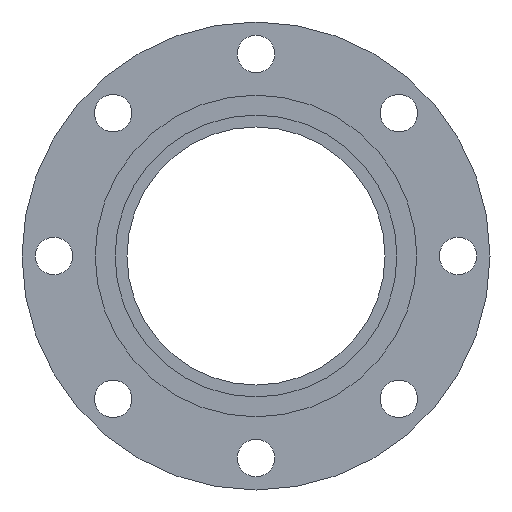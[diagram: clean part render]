
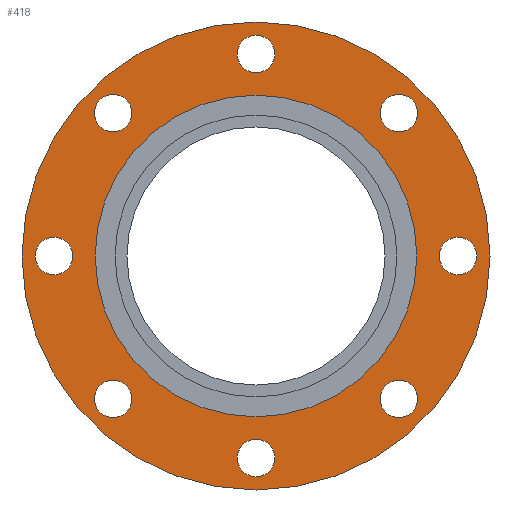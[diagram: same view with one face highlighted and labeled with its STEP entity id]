
A CAD part, left-side view. The second image highlights one B-rep face of the part: STEP entity #418.
In plain terms, the highlighted planar face has unit normal (-1, 0, 0).
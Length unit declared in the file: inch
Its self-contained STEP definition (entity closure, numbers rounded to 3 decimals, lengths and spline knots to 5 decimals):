
#14=FACE_BOUND('',#72,.T.);
#15=FACE_BOUND('',#73,.T.);
#16=FACE_BOUND('',#74,.T.);
#17=FACE_BOUND('',#75,.T.);
#18=FACE_BOUND('',#76,.T.);
#19=FACE_BOUND('',#77,.T.);
#20=FACE_BOUND('',#78,.T.);
#21=FACE_BOUND('',#79,.T.);
#22=FACE_BOUND('',#80,.T.);
#36=PLANE('',#478);
#51=FACE_OUTER_BOUND('',#71,.T.);
#71=EDGE_LOOP('',(#304,#305));
#72=EDGE_LOOP('',(#306));
#73=EDGE_LOOP('',(#307));
#74=EDGE_LOOP('',(#308));
#75=EDGE_LOOP('',(#309));
#76=EDGE_LOOP('',(#310));
#77=EDGE_LOOP('',(#311));
#78=EDGE_LOOP('',(#312));
#79=EDGE_LOOP('',(#313));
#80=EDGE_LOOP('',(#314,#315));
#133=CIRCLE('',#451,0.44);
#135=CIRCLE('',#454,0.44);
#137=CIRCLE('',#457,0.44);
#139=CIRCLE('',#460,0.44);
#141=CIRCLE('',#463,0.44);
#143=CIRCLE('',#466,0.44);
#145=CIRCLE('',#469,0.44);
#147=CIRCLE('',#472,0.44);
#148=CIRCLE('',#474,5.5);
#149=CIRCLE('',#475,5.5);
#152=CIRCLE('',#479,3.78);
#153=CIRCLE('',#480,3.78);
#173=VERTEX_POINT('',#649);
#175=VERTEX_POINT('',#655);
#177=VERTEX_POINT('',#661);
#179=VERTEX_POINT('',#667);
#181=VERTEX_POINT('',#673);
#183=VERTEX_POINT('',#679);
#185=VERTEX_POINT('',#685);
#187=VERTEX_POINT('',#691);
#188=VERTEX_POINT('',#695);
#189=VERTEX_POINT('',#696);
#192=VERTEX_POINT('',#705);
#193=VERTEX_POINT('',#706);
#214=EDGE_CURVE('',#173,#173,#133,.T.);
#217=EDGE_CURVE('',#175,#175,#135,.T.);
#220=EDGE_CURVE('',#177,#177,#137,.T.);
#223=EDGE_CURVE('',#179,#179,#139,.T.);
#226=EDGE_CURVE('',#181,#181,#141,.T.);
#229=EDGE_CURVE('',#183,#183,#143,.T.);
#232=EDGE_CURVE('',#185,#185,#145,.T.);
#235=EDGE_CURVE('',#187,#187,#147,.T.);
#236=EDGE_CURVE('',#188,#189,#148,.T.);
#237=EDGE_CURVE('',#189,#188,#149,.T.);
#241=EDGE_CURVE('',#192,#193,#152,.T.);
#242=EDGE_CURVE('',#193,#192,#153,.T.);
#304=ORIENTED_EDGE('',*,*,#236,.T.);
#305=ORIENTED_EDGE('',*,*,#237,.T.);
#306=ORIENTED_EDGE('',*,*,#214,.T.);
#307=ORIENTED_EDGE('',*,*,#217,.T.);
#308=ORIENTED_EDGE('',*,*,#220,.T.);
#309=ORIENTED_EDGE('',*,*,#223,.T.);
#310=ORIENTED_EDGE('',*,*,#226,.T.);
#311=ORIENTED_EDGE('',*,*,#229,.T.);
#312=ORIENTED_EDGE('',*,*,#232,.T.);
#313=ORIENTED_EDGE('',*,*,#235,.T.);
#314=ORIENTED_EDGE('',*,*,#241,.F.);
#315=ORIENTED_EDGE('',*,*,#242,.F.);
#418=ADVANCED_FACE('',(#51,#14,#15,#16,#17,#18,#19,#20,#21,#22),#36,.T.);
#451=AXIS2_PLACEMENT_3D('',#651,#516,#517);
#454=AXIS2_PLACEMENT_3D('',#657,#523,#524);
#457=AXIS2_PLACEMENT_3D('',#663,#530,#531);
#460=AXIS2_PLACEMENT_3D('',#669,#537,#538);
#463=AXIS2_PLACEMENT_3D('',#675,#544,#545);
#466=AXIS2_PLACEMENT_3D('',#681,#551,#552);
#469=AXIS2_PLACEMENT_3D('',#687,#558,#559);
#472=AXIS2_PLACEMENT_3D('',#693,#565,#566);
#474=AXIS2_PLACEMENT_3D('',#697,#569,#570);
#475=AXIS2_PLACEMENT_3D('',#698,#571,#572);
#478=AXIS2_PLACEMENT_3D('',#704,#578,#579);
#479=AXIS2_PLACEMENT_3D('',#707,#580,#581);
#480=AXIS2_PLACEMENT_3D('',#708,#582,#583);
#516=DIRECTION('center_axis',(1.,0.,0.));
#517=DIRECTION('ref_axis',(0.,-0.707,0.707));
#523=DIRECTION('center_axis',(1.,0.,0.));
#524=DIRECTION('ref_axis',(0.,-1.,0.));
#530=DIRECTION('center_axis',(1.,0.,0.));
#531=DIRECTION('ref_axis',(0.,-0.707,-0.707));
#537=DIRECTION('center_axis',(1.,0.,0.));
#538=DIRECTION('ref_axis',(0.,0.,-1.));
#544=DIRECTION('center_axis',(1.,0.,0.));
#545=DIRECTION('ref_axis',(0.,0.707,-0.707));
#551=DIRECTION('center_axis',(1.,0.,0.));
#552=DIRECTION('ref_axis',(0.,1.,0.));
#558=DIRECTION('center_axis',(1.,0.,0.));
#559=DIRECTION('ref_axis',(0.,0.707,0.707));
#565=DIRECTION('center_axis',(1.,0.,0.));
#566=DIRECTION('ref_axis',(0.,0.,1.));
#569=DIRECTION('center_axis',(-1.,0.,0.));
#570=DIRECTION('ref_axis',(0.,0.,1.));
#571=DIRECTION('center_axis',(-1.,0.,0.));
#572=DIRECTION('ref_axis',(0.,0.,1.));
#578=DIRECTION('center_axis',(-1.,0.,0.));
#579=DIRECTION('ref_axis',(0.,0.,1.));
#580=DIRECTION('center_axis',(-1.,0.,0.));
#581=DIRECTION('ref_axis',(0.,0.,1.));
#582=DIRECTION('center_axis',(-1.,0.,0.));
#583=DIRECTION('ref_axis',(0.,0.,1.));
#649=CARTESIAN_POINT('',(-1.,3.66988,-3.66988));
#651=CARTESIAN_POINT('Origin',(-1.,3.35876,-3.35876));
#655=CARTESIAN_POINT('',(-1.,5.19,0.));
#657=CARTESIAN_POINT('Origin',(-1.,4.75,0.));
#661=CARTESIAN_POINT('',(-1.,3.66988,3.66988));
#663=CARTESIAN_POINT('Origin',(-1.,3.35876,3.35876));
#667=CARTESIAN_POINT('',(-1.,0.,5.19));
#669=CARTESIAN_POINT('Origin',(-1.,0.,4.75));
#673=CARTESIAN_POINT('',(-1.,-3.66988,3.66988));
#675=CARTESIAN_POINT('Origin',(-1.,-3.35876,3.35876));
#679=CARTESIAN_POINT('',(-1.,-5.19,0.));
#681=CARTESIAN_POINT('Origin',(-1.,-4.75,0.));
#685=CARTESIAN_POINT('',(-1.,-3.66988,-3.66988));
#687=CARTESIAN_POINT('Origin',(-1.,-3.35876,-3.35876));
#691=CARTESIAN_POINT('',(-1.,0.,-5.19));
#693=CARTESIAN_POINT('Origin',(-1.,0.,-4.75));
#695=CARTESIAN_POINT('',(-1.,0.,5.5));
#696=CARTESIAN_POINT('',(-1.,0.,-5.5));
#697=CARTESIAN_POINT('Origin',(-1.,0.,0.));
#698=CARTESIAN_POINT('Origin',(-1.,0.,0.));
#704=CARTESIAN_POINT('Origin',(-1.,0.,4.64));
#705=CARTESIAN_POINT('',(-1.,0.,3.78));
#706=CARTESIAN_POINT('',(-1.,0.,-3.78));
#707=CARTESIAN_POINT('Origin',(-1.,0.,0.));
#708=CARTESIAN_POINT('Origin',(-1.,0.,0.));
